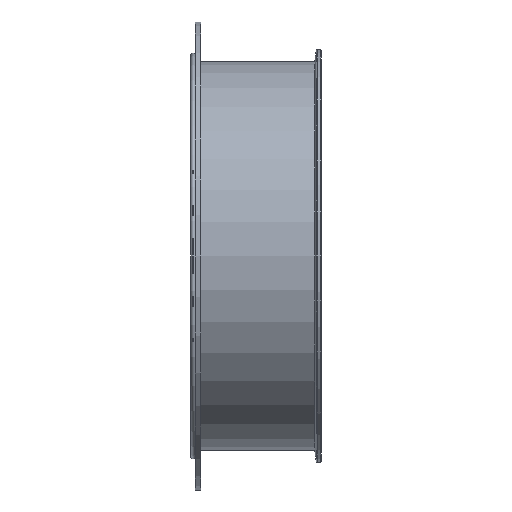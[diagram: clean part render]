
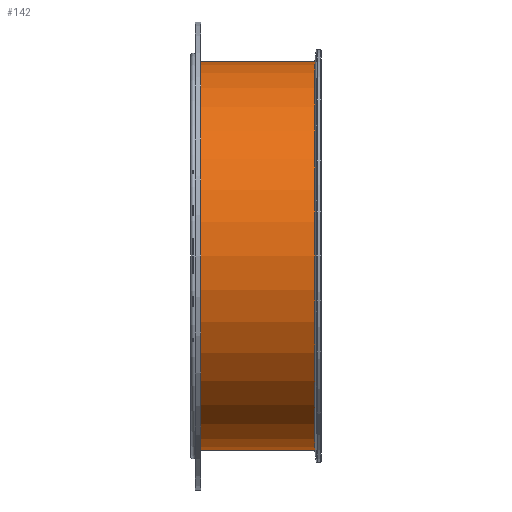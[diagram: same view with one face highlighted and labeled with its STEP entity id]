
A CAD part, left-side view. The second image highlights one B-rep face of the part: STEP entity #142.
In plain terms, the highlighted cylindrical face has radius 150.8 mm (diameter 301.6 mm), a full revolution.
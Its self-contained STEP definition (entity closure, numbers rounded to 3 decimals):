
#142=ADVANCED_FACE('',(#233,#234),#163,.T.);
#163=CYLINDRICAL_SURFACE('',#590,150.8);
#233=FACE_BOUND('',#313,.T.);
#234=FACE_BOUND('',#314,.T.);
#313=EDGE_LOOP('',(#393));
#314=EDGE_LOOP('',(#394));
#393=ORIENTED_EDGE('',*,*,#474,.F.);
#394=ORIENTED_EDGE('',*,*,#482,.F.);
#434=VERTEX_POINT('',#824);
#442=VERTEX_POINT('',#845);
#474=EDGE_CURVE('',#434,#434,#514,.T.);
#482=EDGE_CURVE('',#442,#442,#522,.T.);
#514=CIRCLE('',#575,150.8);
#522=CIRCLE('',#588,150.8);
#575=AXIS2_PLACEMENT_3D('',#823,#698,#699);
#588=AXIS2_PLACEMENT_3D('',#844,#724,#725);
#590=AXIS2_PLACEMENT_3D('',#847,#728,#729);
#698=DIRECTION('',(0.,-1.,0.));
#699=DIRECTION('',(-1.,0.,0.));
#724=DIRECTION('',(0.,1.,0.));
#725=DIRECTION('',(1.,0.,0.));
#728=DIRECTION('',(0.,1.,0.));
#729=DIRECTION('',(1.,0.,0.));
#823=CARTESIAN_POINT('',(0.,5.196,0.));
#824=CARTESIAN_POINT('',(-150.8,5.196,0.));
#844=CARTESIAN_POINT('',(0.,99.2,0.));
#845=CARTESIAN_POINT('',(150.8,99.2,0.));
#847=CARTESIAN_POINT('',(0.,-192.076,0.));
